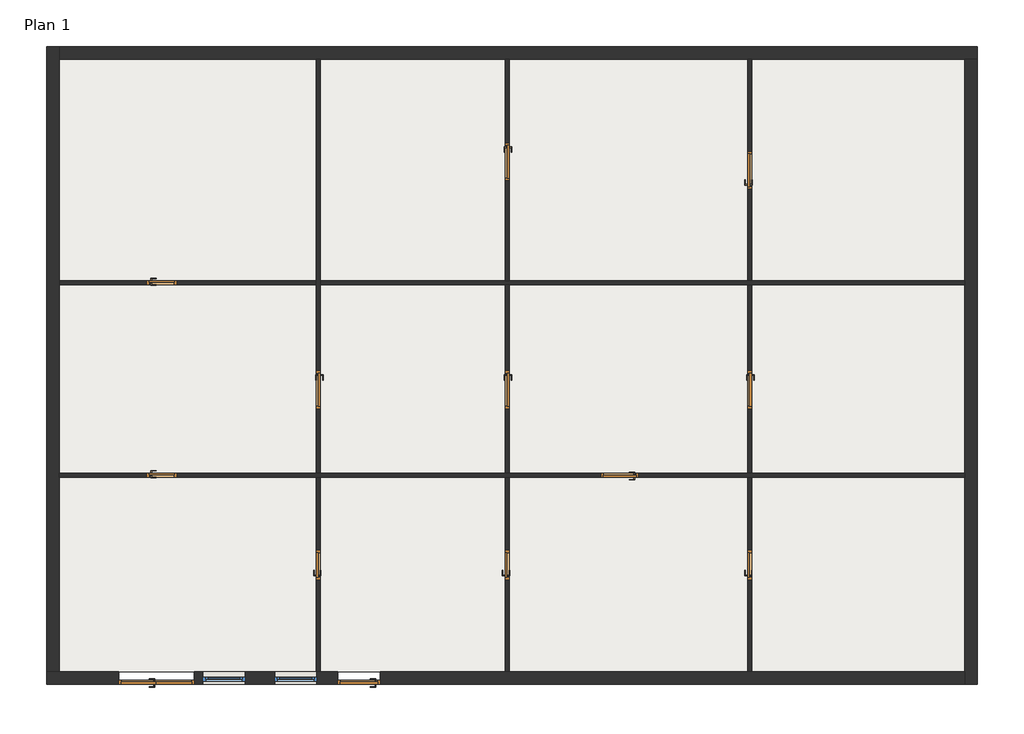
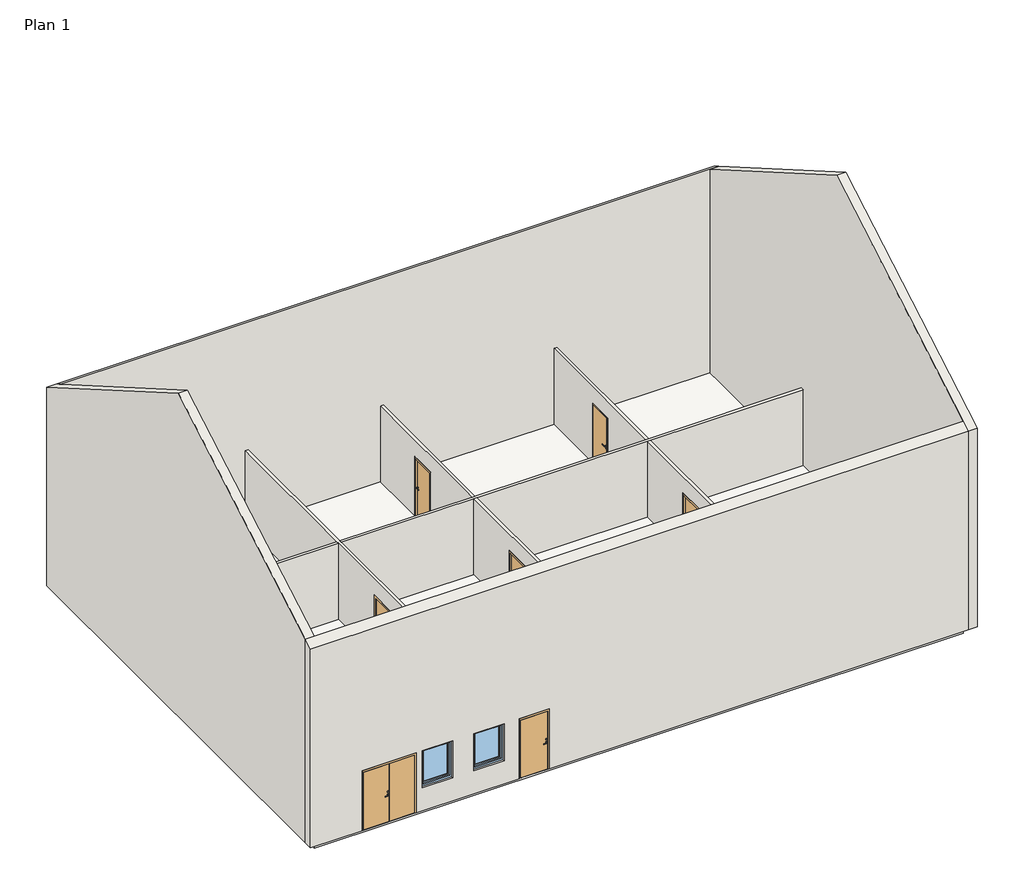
# One storey: 13 doors, 9 walls, 2 windows, 1 slab.
"""IFC4 building model written with IfcOpenShell, lengths in millimetres."""

from ifc_helpers import new_model, si_unit, frame, origin, place, context, project, spatial, polyline, outline, extrude, faceted_brep, transform, mapped, element, save
from components import d7_8e38d2bf, d9_ccbe3deb, yd10_129f10a2, ypd_18_4cc69b65, single_window_b4f624ed, single_window_2865382c

model = new_model("IFC4")

# Units and contexts
model_context = context("Model", 3, world=origin())
ifc_project = project(units=[si_unit("LENGTHUNIT", "METRE", prefix="MILLI")], contexts=[model_context])

# Site, building, storey
site = spatial("IfcSite", under=ifc_project)
building = spatial("IfcBuilding", under=site)
storey = spatial("IfcBuildingStorey", under=building, Name="Plan 1", Elevation=0.0)

# Doors
placement = place(None, origin())
d7_shape = d7_8e38d2bf(model_context)
element("IfcDoor", 1, ObjectType="Enkeldörr : D7", at=placement, inside=storey, context=model_context, shape_type="MappedRepresentation", body=[
    mapped(d7_shape, transform((16350.0, 12705.0, 0.0), x_axis=(0.0, 1.0, 0.0), y_axis=(-1.0, 0.0, 0.0), z_axis=(0.0, 0.0, 1.0))),
])
element("IfcDoor", 2, ObjectType="Enkeldörr : D7", at=placement, inside=storey, context=model_context, shape_type="MappedRepresentation", body=[
    mapped(d7_shape, transform((12605.0, 14850.0, 0.0), x_axis=(1.0, 0.0, 0.0), y_axis=(0.0, 1.0, 0.0), z_axis=(0.0, 0.0, 1.0))),
])
element("IfcDoor", 3, ObjectType="Enkeldörr : D7", at=placement, inside=storey, context=model_context, shape_type="MappedRepresentation", body=[
    mapped(d7_shape, transform((12605.0, 19450.0, 0.0), x_axis=(1.0, 0.0, 0.0), y_axis=(0.0, 1.0, 0.0), z_axis=(0.0, 0.0, 1.0))),
])
element("IfcDoor", 4, ObjectType="Enkeldörr : D7", at=placement, inside=storey, context=model_context, shape_type="MappedRepresentation", body=[
    mapped(d7_shape, transform((26654.8, 12705.0, 0.0), x_axis=(0.0, 1.0, 0.0), y_axis=(-1.0, 0.0, 0.0), z_axis=(0.0, 0.0, 1.0))),
])
element("IfcDoor", 5, ObjectType="Enkeldörr : D7", at=placement, inside=storey, context=model_context, shape_type="MappedRepresentation", body=[
    mapped(d7_shape, transform((20859.6, 12705.0, 0.0), x_axis=(0.0, 1.0, 0.0), y_axis=(-1.0, 0.0, 0.0), z_axis=(0.0, 0.0, 1.0))),
])
d9_shape = d9_ccbe3deb(model_context)
element("IfcDoor", 6, ObjectType="Enkeldörr : D9", at=placement, inside=storey, context=model_context, shape_type="MappedRepresentation", body=[
    mapped(d9_shape, transform((16350.0, 16895.0, 0.0), x_axis=(0.0, -1.0, 0.0), y_axis=(1.0, 0.0, 0.0), z_axis=(0.0, 0.0, 1.0))),
])
element("IfcDoor", 7, ObjectType="Enkeldörr : D9", at=placement, inside=storey, context=model_context, shape_type="MappedRepresentation", body=[
    mapped(d9_shape, transform((26654.8, 16895.0, 0.0), x_axis=(0.0, -1.0, 0.0), y_axis=(1.0, 0.0, 0.0), z_axis=(0.0, 0.0, 1.0))),
])
element("IfcDoor", 8, ObjectType="Enkeldörr : D9", at=placement, inside=storey, context=model_context, shape_type="MappedRepresentation", body=[
    mapped(d9_shape, transform((20859.6, 16895.0, 0.0), x_axis=(0.0, -1.0, 0.0), y_axis=(1.0, 0.0, 0.0), z_axis=(0.0, 0.0, 1.0))),
])
element("IfcDoor", 9, ObjectType="Enkeldörr : D9", at=placement, inside=storey, context=model_context, shape_type="MappedRepresentation", body=[
    mapped(d9_shape, transform((20859.6, 22342.5, 0.0), x_axis=(0.0, -1.0, 0.0), y_axis=(1.0, 0.0, 0.0), z_axis=(0.0, 0.0, 1.0))),
])
element("IfcDoor", 10, ObjectType="Enkeldörr : D9", at=placement, inside=storey, context=model_context, shape_type="MappedRepresentation", body=[
    mapped(d9_shape, transform((26654.8, 22142.5, 0.0), x_axis=(0.0, 1.0, 0.0), y_axis=(-1.0, 0.0, 0.0), z_axis=(0.0, 0.0, 1.0))),
])
element("IfcDoor", 11, ObjectType="Enkeldörr : D9", at=placement, inside=storey, context=model_context, shape_type="MappedRepresentation", body=[
    mapped(d9_shape, transform((23547.5, 14850.0, 0.0), x_axis=(-1.0, 0.0, 0.0), y_axis=(0.0, -1.0, 0.0), z_axis=(0.0, 0.0, 1.0))),
])
yd10_shape = yd10_129f10a2(model_context)
element("IfcDoor", 12, ObjectType="Enkeldörr : YD10", at=placement, inside=storey, context=model_context, shape_type="MappedRepresentation", body=[
    mapped(yd10_shape, transform((17318.125, 10000.0, 0.0), x_axis=(-1.0, 0.0, 0.0), y_axis=(0.0, -1.0, 0.0), z_axis=(0.0, 0.0, 1.0))),
])
ypd_18_shape = ypd_18_4cc69b65(model_context)
element("IfcDoor", 13, ObjectType="Pardörr : YPD 18", at=placement, inside=storey, context=model_context, shape_type="MappedRepresentation", body=[
    mapped(ypd_18_shape, transform((12476.25, 10000.0, 0.0), x_axis=(-1.0, 0.0, 0.0), y_axis=(0.0, -1.0, 0.0), z_axis=(0.0, 0.0, 1.0))),
])

# Slab
element("IfcSlab", 14, ObjectType="Bjälklag 300 mm", at=placement, inside=storey, context=model_context, shape_type="SweptSolid", body=[
    extrude(outline(polyline([(10150.0, 24797.5), (31802.5, 24797.5), (31802.5, 10150.0), (10150.0, 10150.0), (10150.0, 24797.5)])), frame((0.0, 0.0, -300.0), z_axis=(0.0, 0.0, 1.0), x_axis=(1.0, 0.0, 0.0)), (0.0, 0.0, 1.0), 300.0),
])

# Walls
element("IfcWall", 15, ObjectType="IV 95", at=placement, inside=storey, context=model_context, shape_type="Brep", body=[
    faceted_brep([(10150.0, 14802.5, 2680.0), (10150.0, 14802.5, 0.0), (12250.0, 14802.5, 0.0), (12250.0, 14802.5, 2110.0), (12960.0, 14802.5, 2110.0), (12960.0, 14802.5, 0.0), (16302.5, 14802.5, 0.0), (16397.5, 14802.5, 0.0), (20812.1, 14802.5, 0.0), (20907.1, 14802.5, 0.0), (23092.5, 14802.5, 0.0), (23092.5, 14802.5, 2110.0), (24002.5, 14802.5, 2110.0), (24002.5, 14802.5, 0.0), (26607.3, 14802.5, 0.0), (26702.3, 14802.5, 0.0), (31802.5, 14802.5, 0.0), (31802.5, 14802.5, 2680.0), (26702.3, 14802.5, 2680.0), (26607.3, 14802.5, 2680.0), (20907.1, 14802.5, 2680.0), (20812.1, 14802.5, 2680.0), (16397.5, 14802.5, 2680.0), (16302.5, 14802.5, 2680.0), (10150.0, 14897.5, 0.0), (10150.0, 14897.5, 2680.0), (16302.5, 14897.5, 2680.0), (16397.5, 14897.5, 2680.0), (20812.1, 14897.5, 2680.0), (20907.1, 14897.5, 2680.0), (26607.3, 14897.5, 2680.0), (26702.3, 14897.5, 2680.0), (31802.5, 14897.5, 2680.0), (31802.5, 14897.5, 0.0), (26702.3, 14897.5, 0.0), (26607.3, 14897.5, 0.0), (24002.5, 14897.5, 0.0), (24002.5, 14897.5, 2110.0), (23092.5, 14897.5, 2110.0), (23092.5, 14897.5, 0.0), (20907.1, 14897.5, 0.0), (20812.1, 14897.5, 0.0), (16397.5, 14897.5, 0.0), (16302.5, 14897.5, 0.0), (12960.0, 14897.5, 0.0), (12960.0, 14897.5, 2110.0), (12250.0, 14897.5, 2110.0), (12250.0, 14897.5, 0.0)], [[[0, 1, 2, 3, 4, 5, 6, 7, 8, 9, 10, 11, 12, 13, 14, 15, 16, 17, 18, 19, 20, 21, 22, 23]], [[24, 25, 26, 27, 28, 29, 30, 31, 32, 33, 34, 35, 36, 37, 38, 39, 40, 41, 42, 43, 44, 45, 46, 47]], [[1, 24, 47, 2]], [[33, 16, 15, 14, 13, 36, 35, 34]], [[5, 44, 43, 42, 41, 40, 39, 10, 9, 8, 7, 6]], [[1, 0, 25, 24]], [[17, 16, 33, 32]], [[4, 45, 44, 5]], [[45, 4, 3, 46]], [[46, 3, 2, 47]], [[38, 11, 10, 39]], [[11, 38, 37, 12]], [[12, 37, 36, 13]], [[0, 23, 22, 21, 20, 19, 18, 17, 32, 31, 30, 29, 28, 27, 26, 25]]]),
])
element("IfcWall", 16, ObjectType="IV 95", at=placement, inside=storey, context=model_context, shape_type="Brep", body=[
    faceted_brep([(16302.5, 10150.0, 0.0), (16302.5, 10150.0, 2680.0), (16302.5, 14802.5, 2680.0), (16302.5, 14802.5, 0.0), (16302.5, 13060.0, 0.0), (16302.5, 13060.0, 2110.0), (16302.5, 12350.0, 2110.0), (16302.5, 12350.0, 0.0), (16397.5, 10150.0, 2680.0), (16397.5, 10150.0, 0.0), (16397.5, 12350.0, 0.0), (16397.5, 12350.0, 2110.0), (16397.5, 13060.0, 2110.0), (16397.5, 13060.0, 0.0), (16397.5, 14802.5, 0.0), (16397.5, 14802.5, 2680.0)], [[[0, 1, 2, 3, 4, 5, 6, 7]], [[8, 9, 10, 11, 12, 13, 14, 15]], [[9, 0, 7, 10]], [[13, 4, 3, 14]], [[1, 0, 9, 8]], [[3, 2, 15, 14]], [[12, 5, 4, 13]], [[5, 12, 11, 6]], [[6, 11, 10, 7]], [[1, 8, 15, 2]]]),
    faceted_brep([(16302.5, 24797.5, 2680.0), (16302.5, 24797.5, 0.0), (16302.5, 19497.5, 0.0), (16302.5, 19402.5, 0.0), (16302.5, 17350.0, 0.0), (16302.5, 17350.0, 2110.0), (16302.5, 16440.0, 2110.0), (16302.5, 16440.0, 0.0), (16302.5, 14897.5, 0.0), (16302.5, 14897.5, 2680.0), (16302.5, 19402.5, 2680.0), (16302.5, 19497.5, 2680.0), (16397.5, 24797.5, 0.0), (16397.5, 24797.5, 2680.0), (16397.5, 19497.5, 2680.0), (16397.5, 19402.5, 2680.0), (16397.5, 14897.5, 2680.0), (16397.5, 14897.5, 0.0), (16397.5, 16440.0, 0.0), (16397.5, 16440.0, 2110.0), (16397.5, 17350.0, 2110.0), (16397.5, 17350.0, 0.0), (16397.5, 19402.5, 0.0), (16397.5, 19497.5, 0.0)], [[[0, 1, 2, 3, 4, 5, 6, 7, 8, 9, 10, 11]], [[12, 13, 14, 15, 16, 17, 18, 19, 20, 21, 22, 23]], [[1, 12, 23, 22, 21, 4, 3, 2]], [[7, 18, 17, 8]], [[1, 0, 13, 12]], [[9, 8, 17, 16]], [[6, 19, 18, 7]], [[19, 6, 5, 20]], [[20, 5, 4, 21]], [[13, 0, 11, 10, 9, 16, 15, 14]]]),
])
element("IfcWall", 17, ObjectType="IV 95", at=placement, inside=storey, context=model_context, shape_type="Brep", body=[
    faceted_brep([(10150.0, 19402.5, 0.0), (12250.0, 19402.5, 0.0), (12250.0, 19402.5, 2110.0), (12960.0, 19402.5, 2110.0), (12960.0, 19402.5, 0.0), (16302.5, 19402.5, 0.0), (16302.5, 19402.5, 2680.0), (10150.0, 19402.5, 2680.0), (12250.0, 19497.5, 0.0), (10150.0, 19497.5, 0.0), (10150.0, 19497.5, 2680.0), (16302.5, 19497.5, 2680.0), (16302.5, 19497.5, 0.0), (12960.0, 19497.5, 0.0), (12960.0, 19497.5, 2110.0), (12250.0, 19497.5, 2110.0)], [[[0, 1, 2, 3, 4, 5, 6, 7]], [[8, 9, 10, 11, 12, 13, 14, 15]], [[1, 0, 9, 8]], [[4, 13, 12, 5]], [[3, 14, 13, 4]], [[14, 3, 2, 15]], [[15, 2, 1, 8]], [[0, 7, 10, 9]], [[6, 5, 12, 11]], [[10, 7, 6, 11]]]),
    faceted_brep([(31802.5, 19402.5, 0.0), (31802.5, 19402.5, 2680.0), (26702.3, 19402.5, 2680.0), (26607.3, 19402.5, 2680.0), (20907.1, 19402.5, 2680.0), (20812.1, 19402.5, 2680.0), (16397.5, 19402.5, 2680.0), (16397.5, 19402.5, 0.0), (20812.1, 19402.5, 0.0), (20907.1, 19402.5, 0.0), (26607.3, 19402.5, 0.0), (26702.3, 19402.5, 0.0), (31802.5, 19497.5, 2680.0), (31802.5, 19497.5, 0.0), (26702.3, 19497.5, 0.0), (26607.3, 19497.5, 0.0), (20907.1, 19497.5, 0.0), (20812.1, 19497.5, 0.0), (16397.5, 19497.5, 0.0), (16397.5, 19497.5, 2680.0), (20812.1, 19497.5, 2680.0), (20907.1, 19497.5, 2680.0), (26607.3, 19497.5, 2680.0), (26702.3, 19497.5, 2680.0)], [[[0, 1, 2, 3, 4, 5, 6, 7, 8, 9, 10, 11]], [[12, 13, 14, 15, 16, 17, 18, 19, 20, 21, 22, 23]], [[13, 0, 11, 10, 9, 8, 7, 18, 17, 16, 15, 14]], [[1, 0, 13, 12]], [[7, 6, 19, 18]], [[1, 12, 23, 22, 21, 20, 19, 6, 5, 4, 3, 2]]]),
])
element("IfcWall", 18, ObjectType="IV 95", at=placement, inside=storey, context=model_context, shape_type="SweptSolid", body=[
    extrude(outline(polyline([(16440.0, 2110.0), (16440.0, 0.0), (14897.5, 0.0), (14897.5, 2680.0), (19402.5, 2680.0), (19402.5, 0.0), (17350.0, 0.0), (17350.0, 2110.0), (16440.0, 2110.0)])), frame((26607.3, 0.0, 0.0), z_axis=(1.0, 0.0, 0.0), x_axis=(0.0, 1.0, 0.0)), (0.0, 0.0, 1.0), 95.0),
    extrude(outline(polyline([(12350.0, 0.0), (10150.0, 0.0), (10150.0, 2680.0), (14802.5, 2680.0), (14802.5, 0.0), (13060.0, 0.0), (13060.0, 2110.0), (12350.0, 2110.0), (12350.0, 0.0)])), frame((26607.3, 0.0, 0.0), z_axis=(1.0, 0.0, 0.0), x_axis=(0.0, 1.0, 0.0)), (0.0, 0.0, 1.0), 95.0),
    extrude(outline(polyline([(24797.5, 2680.0), (24797.5, 0.0), (22597.5, 0.0), (22597.5, 2110.0), (21687.5, 2110.0), (21687.5, 0.0), (19497.5, 0.0), (19497.5, 2680.0), (24797.5, 2680.0)])), frame((26607.3, 0.0, 0.0), z_axis=(1.0, 0.0, 0.0), x_axis=(0.0, 1.0, 0.0)), (0.0, 0.0, 1.0), 95.0),
])
element("IfcWall", 19, ObjectType="IV 95", at=placement, inside=storey, context=model_context, shape_type="SweptSolid", body=[
    extrude(outline(polyline([(16440.0, 2110.0), (16440.0, 0.0), (14897.5, 0.0), (14897.5, 2680.0), (19402.5, 2680.0), (19402.5, 0.0), (17350.0, 0.0), (17350.0, 2110.0), (16440.0, 2110.0)])), frame((20812.1, 0.0, 0.0), z_axis=(1.0, 0.0, 0.0), x_axis=(0.0, 1.0, 0.0)), (0.0, 0.0, 1.0), 95.0),
    extrude(outline(polyline([(12350.0, 0.0), (10150.0, 0.0), (10150.0, 2680.0), (14802.5, 2680.0), (14802.5, 0.0), (13060.0, 0.0), (13060.0, 2110.0), (12350.0, 2110.0), (12350.0, 0.0)])), frame((20812.1, 0.0, 0.0), z_axis=(1.0, 0.0, 0.0), x_axis=(0.0, 1.0, 0.0)), (0.0, 0.0, 1.0), 95.0),
    extrude(outline(polyline([(24797.5, 2680.0), (24797.5, 0.0), (22797.5, 0.0), (22797.5, 2110.0), (21887.5, 2110.0), (21887.5, 0.0), (19497.5, 0.0), (19497.5, 2680.0), (24797.5, 2680.0)])), frame((20812.1, 0.0, 0.0), z_axis=(1.0, 0.0, 0.0), x_axis=(0.0, 1.0, 0.0)), (0.0, 0.0, 1.0), 95.0),
])
element("IfcWall", 20, ObjectType="YVB 300", at=placement, inside=storey, context=model_context, shape_type="Brep", body=[
    faceted_brep([(9850.0, 9850.0, 7000.0), (9850.0, 9850.0, 0.0), (11571.25, 9850.0, 0.0), (11571.25, 9850.0, 2110.0), (13381.25, 9850.0, 2110.0), (13381.25, 9850.0, 0.0), (16813.125, 9850.0, 0.0), (16813.125, 9850.0, 2110.0), (17823.125, 9850.0, 2110.0), (17823.125, 9850.0, 0.0), (31802.5, 9850.0, 0.0), (31802.5, 9850.0, 7000.0), (14596.875, 9850.0, 800.0), (13586.875, 9850.0, 800.0), (13586.875, 9850.0, 2110.0), (14596.875, 9850.0, 2110.0), (15303.125, 9850.0, 800.0), (15303.125, 9850.0, 2110.0), (16313.125, 9850.0, 2110.0), (16313.125, 9850.0, 800.0), (9850.0, 10150.0, 0.0), (9850.0, 10150.0, 7173.2050808), (10150.0, 10150.0, 7173.2050808), (31802.5, 10150.0, 7173.2050808), (31802.5, 10150.0, 3000.0), (31802.5, 10150.0, 2680.0), (31802.5, 10150.0, 0.0), (26702.3, 10150.0, 0.0), (26607.3, 10150.0, 0.0), (20907.1, 10150.0, 0.0), (20812.1, 10150.0, 0.0), (17823.125, 10150.0, 0.0), (17823.125, 10150.0, 2110.0), (16813.125, 10150.0, 2110.0), (16813.125, 10150.0, 0.0), (16397.5, 10150.0, 0.0), (16302.5, 10150.0, 0.0), (13381.25, 10150.0, 0.0), (13381.25, 10150.0, 2110.0), (11571.25, 10150.0, 2110.0), (11571.25, 10150.0, 0.0), (10150.0, 10150.0, 0.0), (14596.875, 10150.0, 800.0), (14596.875, 10150.0, 2110.0), (13586.875, 10150.0, 2110.0), (13586.875, 10150.0, 800.0), (15303.125, 10150.0, 800.0), (16313.125, 10150.0, 800.0), (16313.125, 10150.0, 2110.0), (15303.125, 10150.0, 2110.0)], [[[0, 1, 2, 3, 4, 5, 6, 7, 8, 9, 10, 11], [12, 13, 14, 15], [16, 17, 18, 19]], [[20, 21, 22, 23, 24, 25, 26, 27, 28, 29, 30, 31, 32, 33, 34, 35, 36, 37, 38, 39, 40, 41], [42, 43, 44, 45], [46, 47, 48, 49]], [[1, 20, 41, 40, 2]], [[26, 10, 9, 31, 30, 29, 28, 27]], [[5, 37, 36, 35, 34, 6]], [[1, 0, 21, 20]], [[11, 10, 26, 25, 24, 23]], [[39, 3, 2, 40]], [[3, 39, 38, 4]], [[4, 38, 37, 5]], [[43, 42, 12, 15]], [[44, 43, 15, 14]], [[45, 44, 14, 13]], [[42, 45, 13, 12]], [[17, 16, 46, 49]], [[18, 17, 49, 48]], [[19, 18, 48, 47]], [[16, 19, 47, 46]], [[0, 11, 23, 22, 21]], [[33, 7, 6, 34]], [[7, 33, 32, 8]], [[8, 32, 31, 9]]]),
])
element("IfcWall", 21, ObjectType="YVB 300", at=placement, inside=storey, context=model_context, shape_type="Brep", body=[
    faceted_brep([(9850.0, 25097.5, 0.0), (9850.0, 10150.0, 0.0), (9850.0, 10150.0, 7173.2050808), (9850.0, 17473.75, 11401.5741147), (9850.0, 25097.5, 7000.0), (10150.0, 25097.5, 0.0), (10150.0, 25097.5, 7000.0), (10150.0, 24797.5, 7173.2050808), (10150.0, 17473.75, 11401.5741147), (10150.0, 10150.0, 7173.2050808), (10150.0, 10150.0, 3000.0), (10150.0, 10150.0, 2680.0), (10150.0, 10150.0, 0.0), (10150.0, 14802.5, 0.0), (10150.0, 14897.5, 0.0), (10150.0, 19402.5, 0.0), (10150.0, 19497.5, 0.0), (10150.0, 24797.5, 0.0)], [[[0, 1, 2, 3, 4]], [[5, 6, 7, 8, 9, 10, 11, 12, 13, 14, 15, 16, 17]], [[1, 0, 5, 17, 16, 15, 14, 13, 12]], [[0, 4, 6, 5]], [[2, 1, 12, 11, 10, 9]], [[4, 3, 8, 7, 6]], [[3, 2, 9, 8]]]),
])
element("IfcWall", 22, ObjectType="YVB 300", at=placement, inside=storey, context=model_context, shape_type="Brep", body=[
    faceted_brep([(32102.5, 25097.5, 0.0), (10150.0, 25097.5, 0.0), (10150.0, 25097.5, 7000.0), (32102.5, 25097.5, 7000.0), (32102.5, 24797.5, 0.0), (32102.5, 24797.5, 7173.2050808), (31802.5, 24797.5, 7173.2050808), (10150.0, 24797.5, 7173.2050808), (10150.0, 24797.5, 3000.0), (10150.0, 24797.5, 2680.0), (10150.0, 24797.5, 0.0), (16302.5, 24797.5, 0.0), (16397.5, 24797.5, 0.0), (20812.1, 24797.5, 0.0), (20907.1, 24797.5, 0.0), (26607.3, 24797.5, 0.0), (26702.3, 24797.5, 0.0), (31802.5, 24797.5, 0.0)], [[[0, 1, 2, 3]], [[4, 5, 6, 7, 8, 9, 10, 11, 12, 13, 14, 15, 16, 17]], [[1, 0, 4, 17, 16, 15, 14, 13, 12, 11, 10]], [[0, 3, 5, 4]], [[2, 1, 10, 9, 8, 7]], [[3, 2, 7, 6, 5]]]),
])
element("IfcWall", 23, ObjectType="YVB 300", at=placement, inside=storey, context=model_context, shape_type="Brep", body=[
    faceted_brep([(32102.5, 9850.0, 0.0), (32102.5, 24797.5, 0.0), (32102.5, 24797.5, 7173.2050808), (32102.5, 17473.75, 11401.5741147), (32102.5, 9850.0, 7000.0), (31802.5, 9850.0, 0.0), (31802.5, 9850.0, 7000.0), (31802.5, 10150.0, 7173.2050808), (31802.5, 17473.75, 11401.5741147), (31802.5, 24797.5, 7173.2050808), (31802.5, 24797.5, 3000.0), (31802.5, 24797.5, 2680.0), (31802.5, 24797.5, 0.0), (31802.5, 19497.5, 0.0), (31802.5, 19402.5, 0.0), (31802.5, 14897.5, 0.0), (31802.5, 14802.5, 0.0), (31802.5, 10150.0, 0.0)], [[[0, 1, 2, 3, 4]], [[5, 6, 7, 8, 9, 10, 11, 12, 13, 14, 15, 16, 17]], [[1, 0, 5, 17, 16, 15, 14, 13, 12]], [[0, 4, 6, 5]], [[2, 1, 12, 11, 10, 9]], [[4, 3, 8, 7, 6]], [[3, 2, 9, 8]]]),
])

# Windows
single_window_shape = single_window_b4f624ed(model_context)
element("IfcWindow", 24, ObjectType="Single Window : 10x13 Inåtgående", at=placement, inside=storey, context=model_context, shape_type="MappedRepresentation", body=[
    mapped(single_window_shape, transform((14161.875, 10000.0, 0.0), x_axis=(-1.0, 0.0, 0.0), y_axis=(0.0, -1.0, 0.0), z_axis=(0.0, 0.0, 1.0))),
])
single_window_2_shape = single_window_2865382c(model_context)
element("IfcWindow", 25, ObjectType="Single Window : 10x13 Inåtgående", at=placement, inside=storey, context=model_context, shape_type="MappedRepresentation", body=[
    mapped(single_window_2_shape, transform((15738.125, 10000.0, 0.0), x_axis=(1.0, 0.0, 0.0), y_axis=(0.0, 1.0, 0.0), z_axis=(0.0, 0.0, 1.0))),
])

save(model, "model.ifc")
